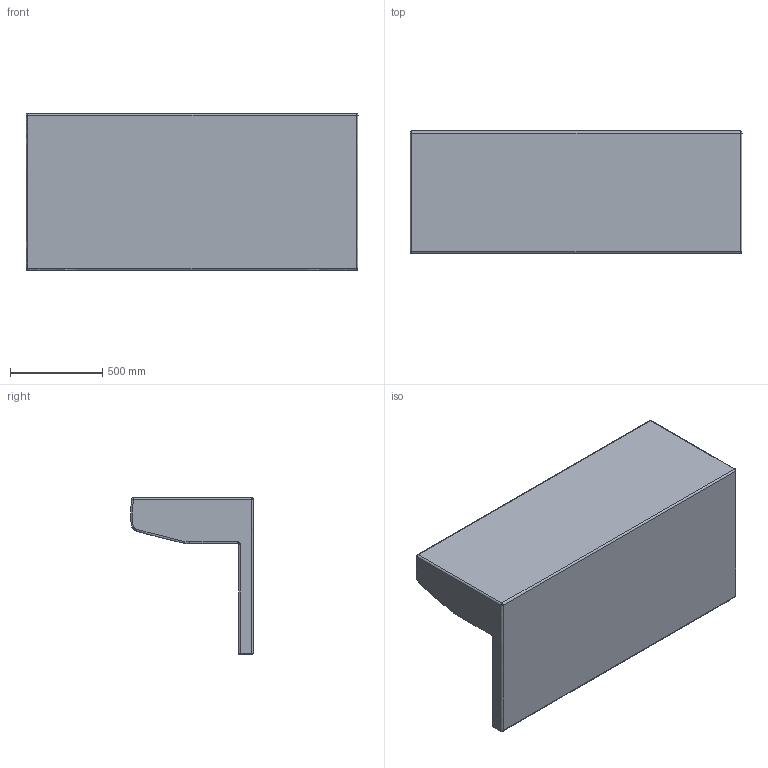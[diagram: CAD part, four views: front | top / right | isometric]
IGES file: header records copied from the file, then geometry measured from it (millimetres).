
Start section: SolidWorks IGES file using NURBS representation for surfaces
Global section: file name: D:\VICCARBE\PRODUCTOS\19-MASS\04-MODELADOS (PLANOS)\SOLIDWORKS\PIEZAS\Backs\01-IGES\VICCARBE_Back_180.IGS; native system: SolidWorks 2009; preprocessor: SolidWorks 2009; author: RUBEN; date: 110908.155050; units: millimetre
Bounding box: 1800 x 664.95 x 850 mm (x, y, z)
Surface area: 5657865.6 mm2 (no closed solid volume)
Topology: 0 solids, 0 shells, 44 faces, 296 edges, 290 vertices
Faces by surface type: bspline 44
